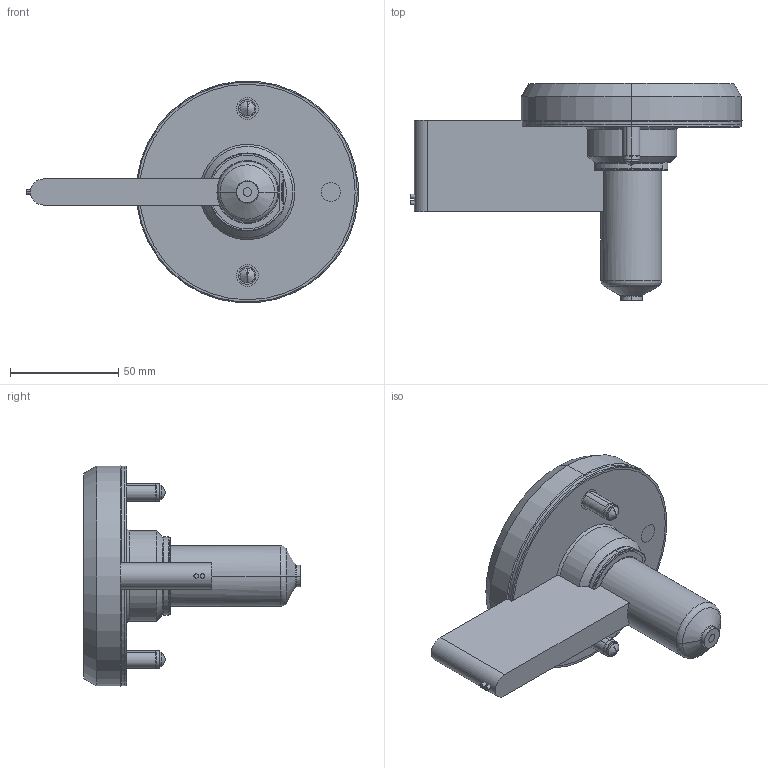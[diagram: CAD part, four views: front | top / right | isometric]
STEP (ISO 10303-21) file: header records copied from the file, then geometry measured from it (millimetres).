
FILE_DESCRIPTION (( 'STEP AP214' ), '1' );
FILE_NAME ('SOHSB6060-SOSRT0601.STEP', '2024-11-29T06:26:43', ( '' ), ( '' ), 'SwSTEP 2.0', 'SolidWorks 2022', '' );
FILE_SCHEMA (( 'AUTOMOTIVE_DESIGN' ));
Length unit declared in the file: millimetre
Products named in the file (9): EcoONE-HSB06-06005_SOTC10200-J; EcoONE-HSB06-06006(A)_SONHC06; EcoONE-HSB06-06003(A)_SOHSBNB6060; EcoONE-HSB06-Open Gate Sprue Tip_SOSRT0601; hexagon socket head cap screws gb_GB_FASTENER_SCREWS_HSHCS M8X25-C; EcoONE-HSB06-00002(A)_SOHSBLR06; EcoONE-HSB06-Open Gate Cut-out Details_Sprue Gate or Full Body Gate; SOHSB6060-SOSRT0601; EcoONE-HSB06-06004_SONH18055
Assembly tree (10 placements, depth 2):
  SOHSB6060-SOSRT0601
    EcoONE-HSB06-06003(A)_SOHSBNB6060
    EcoONE-HSB06-06004_SONH18055
    EcoONE-HSB06-06005_SOTC10200-J
    EcoONE-HSB06-06006(A)_SONHC06  x2
    EcoONE-HSB06-00002(A)_SOHSBLR06
    hexagon socket head cap screws gb_GB_FASTENER_SCREWS_HSHCS M8X25-C  x2
    EcoONE-HSB06-Open Gate Sprue Tip_SOSRT0601
    EcoONE-HSB06-Open Gate Cut-out Details_Sprue Gate or Full Body Gate
Bounding box: 153.01 x 100 x 102.14 mm (x, y, z)
Volume: 284472.3 mm3; surface area: 81836.6 mm2
Topology: 10 solids, 10 shells, 492 faces, 1248 edges, 788 vertices
Faces by surface type: cylinder 152, plane 125, bspline 110, cone 75, torus 22, sphere 8
Entity records: 29977 total; most frequent: CARTESIAN_POINT 19130, ORIENTED_EDGE 2276, DIRECTION 1821, EDGE_CURVE 1138, AXIS2_PLACEMENT_3D 735, VERTEX_POINT 725, EDGE_LOOP 491, ADVANCED_FACE 451
